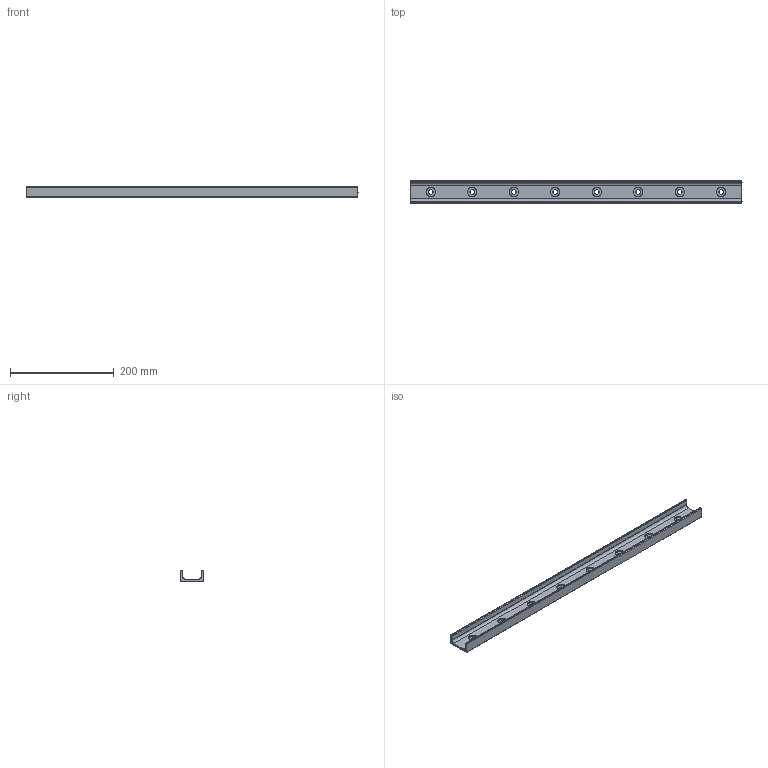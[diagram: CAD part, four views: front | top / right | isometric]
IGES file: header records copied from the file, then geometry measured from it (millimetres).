
Start section: SolidWorks IGES file using analytic representation for surfaces
Global section: file name: C:\Users\IanO\Desktop\43\L1943.ULC43_v2_20180121_IGES\L1943.ULC43-0640.igs; native system: SolidWorks 2017; preprocessor: SolidWorks 2017; author: IanO; date: 190121.084541; units: millimetre
Bounding box: 640 x 43 x 21 mm (x, y, z)
Surface area: 100873.4 mm2 (no closed solid volume)
Topology: 0 solids, 0 shells, 66 faces, 1446 edges, 1446 vertices
Faces by surface type: revolution 45, bspline 21
